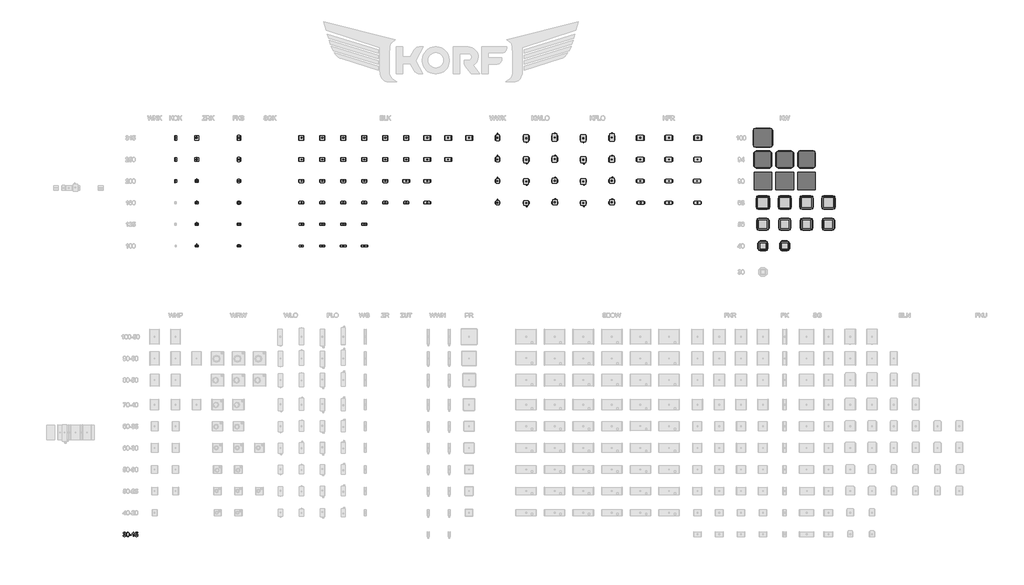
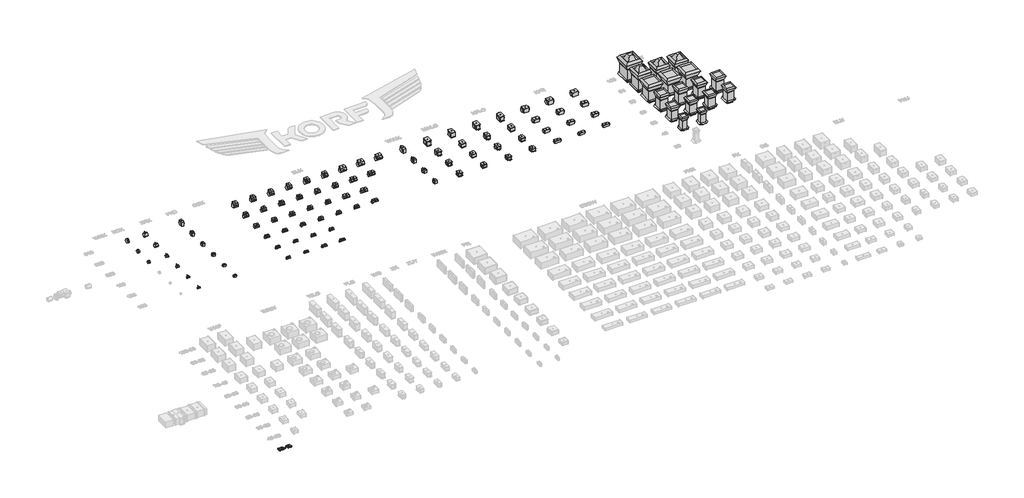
# One storey, part 4 of 9: 77 proxies, 27 dampers.
"""IFC4 building model written with IfcOpenShell, lengths in millimetres."""

from ifc_helpers import new_model, si_unit, origin, origin_with_axes, place, context, project, spatial, polyline, outline, extrude, transform, mapped, element, save
from components import mechanical_equipment_61299fc9, mechanical_equipment_a2146720, mechanical_equipment_e90fcd9d, mechanical_equipment_053e3df5, mechanical_equipment_fbcd34f2, mechanical_equipment_e2b16cbb, mechanical_equipment_80b6507f, mechanical_equipment_c953ac83, mechanical_equipment_d2f8c49c, mechanical_equipment_3f61a7cd, mechanical_equipment_b719484e, mechanical_equipment_6653e10a, mechanical_equipment_e60fcfd1, mechanical_equipment_d7da3fb7, mechanical_equipment_47d9994d, mechanical_equipment_0aa083f5, kw_56_35_4d_3cfab226, kw_56_40_4d_3924a8c1, kw_63_45_4d_b49a6be6, elk_100_0_5_84166f37, elk_100_1_5_5251a224, elk_100_2_3eff5f2a, elk_100_2_5_59d035f4, elk_125_1_5_565e7bed, elk_125_2_5_bc23f03a, elk_160_0_5_c7671d57, elk_160_6_a01fcbb2, elk_200_0_5_a370239c, elk_200_12_531226ba, elk_250_1_534a7c3e, elk_250_12_b1c06b70, elk_315_1_05c9570d, elk_315_12_936a433f, kw_100_71_6d_e29cd3cb, kw_40_31_4d_d219f473, kw_40_32_4d_eafc15b3, kw_63_50_4d_1f30ce77, kw_90_56_4d_96e68f79, kw_94_56_4d_b3d4e402, kw_94_63_4d_f0cd2b53, wwk_160_2_bb5e4d03, wwk_200_2_297e0e08, wwk_250_2_b55ce8c8, wwk_315_2_fcccd76f, damper_7a215fe3, damper_da60aa00, damper_0945496c, fks_100_c1252e7d, fks_125_277625ca, fks_160_d0bd64ff, fks_200_acca57ad, fks_250_b62fb0ec, fks_315_ea77e572, kfr_160_eu5_75ced821, kfr_200_eu5_2e2174df, kfr_250_eu5_363199dd, kfr_315_eu5_83c5217d, zrk_100_c9bb8a23, zrk_125_a92ab89a, zrk_160_3ae2b865, zrk_200_2ed01013, zrk_250_d0fe852c, zrk_315_1ff1c822

model = new_model("IFC4")

# Units and contexts
model_context = context("Model", 3, world=origin())
ifc_project = project(units=[si_unit("LENGTHUNIT", "METRE", prefix="MILLI")], contexts=[model_context])

# Site, building, storey
site = spatial("IfcSite", under=ifc_project)
building = spatial("IfcBuilding", under=site)
storey = spatial("IfcBuildingStorey", under=building, Name="KORF_Уровень 1", Elevation=0.0)

# Proxies
placement = place(None, origin())
element("IfcBuildingElementProxy", 1, Name="Текст модели 1", ObjectType="Текст модели 1", at=placement, inside=storey, context=model_context, shape_type="SweptSolid", body=[
    extrude(outline(polyline([(-11660.9256351, -19518.4615676), (-11623.2545188, -19513.752678), (-11614.820824, -19537.4258844), (-11602.469186, -19553.4103571), (-11585.5925995, -19562.5154365), (-11563.5840592, -19565.5504629), (-11537.7587431, -19561.3750023), (-11517.819539, -19548.8486204), (-11505.0724278, -19530.160215), (-11500.8233908, -19507.4986841), (-11505.0356396, -19485.9867844), (-11517.6723862, -19468.5399808), (-11536.8022499, -19456.9792891), (-11560.4938504, -19453.1257252), (-11586.9077776, -19457.2460036), (-11582.7139229, -19419.5748873), (-11576.6806582, -19420.0163457), (-11554.1110978, -19417.312413), (-11533.9327703, -19409.200615), (-11519.6957371, -19395.4786166), (-11514.9500594, -19375.9440826), (-11518.389756, -19359.6745014), (-11528.708846, -19346.4767348), (-11544.4541954, -19337.7303404), (-11564.1726703, -19334.8148756), (-11583.9279335, -19337.7579315), (-11600.0779531, -19346.5870994), (-11611.868571, -19361.3023792), (-11618.5456292, -19381.903771), (-11656.2167455, -19377.1948814), (-11645.1251034, -19343.368132), (-11625.3882343, -19318.113033), (-11598.3856959, -19302.3860777), (-11565.4970455, -19297.1437593), (-11541.8146421, -19299.7281303), (-11520.0636191, -19307.4812433), (-11501.7247017, -19319.7133197), (-11488.2786147, -19335.7345806), (-11480.028861, -19354.1930597), (-11477.2789431, -19373.7367907), (-11479.8909053, -19391.9469494), (-11487.7267917, -19408.464851), (-11500.676238, -19422.5363373), (-11518.6288793, -19433.4072503), (-11495.0476435, -19442.935394), (-11477.5732487, -19459.1589899), (-11466.757518, -19481.1951215), (-11463.1522745, -19508.1608717), (-11464.9548962, -19527.2723414), (-11470.3627616, -19544.8754948), (-11479.3758705, -19560.9703321), (-11491.9942229, -19575.5568532), (-11507.3670918, -19587.6601709), (-11524.64375, -19596.3053977), (-11543.8241975, -19601.4925339), (-11564.9084343, -19603.2215793), (-11583.9647217, -19601.7454527), (-11601.3287519, -19597.3170732), (-11617.0005249, -19589.9364407), (-11630.9800407, -19579.6035552), (-11642.7016807, -19566.9254219), (-11651.5998265, -19552.5090462), (-11657.6744779, -19536.3544281), (-11660.9256351, -19518.4615676)])), origin_with_axes(), (0.0, 0.0, 1.0), 30.0),
    extrude(outline(polyline([(-11430.1900477, -19450.2562457), (-11427.4217357, -19402.017719), (-11419.1167996, -19363.5464594), (-11405.358013, -19334.2538555), (-11386.2281493, -19313.5512963), (-11361.5892527, -19301.2456435), (-11331.3033674, -19297.1437593), (-11308.0900135, -19299.5717804), (-11287.3046808, -19306.8558439), (-11269.9222565, -19318.7108412), (-11256.917628, -19334.8516638), (-11247.0951787, -19355.1403558), (-11239.2592922, -19379.4389616), (-11234.1273384, -19410.2950639), (-11232.4166871, -19450.2562457), (-11235.157408, -19498.2188608), (-11243.3795706, -19536.5981499), (-11257.0555837, -19565.9183449), (-11276.1578563, -19586.7036777), (-11300.8519352, -19599.0921039), (-11331.3033674, -19603.2215793), (-11352.0519119, -19601.4281545), (-11370.4460117, -19596.0478803), (-11386.4856667, -19587.0807567), (-11400.1708769, -19574.5267836), (-11413.3042641, -19551.8330631), (-11422.685255, -19523.5567332), (-11428.3138495, -19489.6977941), (-11430.1900477, -19450.2562457)]), holes=[polyline([(-11392.5189314, -19450.1826693), (-11388.1043475, -19509.4392616), (-11382.5861175, -19529.7072603), (-11374.8605956, -19543.7350606), (-11355.1421207, -19560.0966124), (-11331.3033674, -19565.5504629), (-11307.4646141, -19560.0782183), (-11287.7461392, -19543.6614842), (-11280.0206173, -19529.6106913), (-11274.5023873, -19509.3472911), (-11270.0878034, -19450.1826693), (-11274.3552345, -19392.2596491), (-11279.6895235, -19372.0583291), (-11287.157528, -19357.6971357), (-11306.8392147, -19340.5354406), (-11331.7448258, -19334.8148756), (-11355.3260617, -19339.8548589), (-11374.2719844, -19354.9748089), (-11382.2550237, -19370.6097937), (-11387.9571947, -19391.689432), (-11392.5189314, -19450.1826693)])]), origin_with_axes(), (0.0, 0.0, 1.0), 30.0),
    extrude(outline(polyline([(-11208.8722394, -19509.0437885), (-11208.8722394, -19471.3726722), (-11091.1500009, -19471.3726722), (-11091.1500009, -19509.0437885), (-11208.8722394, -19509.0437885)])), origin_with_axes(), (0.0, 0.0, 1.0), 30.0),
    extrude(outline(polyline([(-10916.921088, -19598.5126897), (-10954.5922043, -19598.5126897), (-10954.5922043, -19363.656824), (-10990.2767579, -19389.0774699), (-11029.934437, -19408.096969), (-11029.934437, -19372.4859919), (-11000.3475275, -19356.3911546), (-10974.7153495, -19337.2428967), (-10954.5094309, -19316.8806283), (-10941.2012997, -19297.1437593), (-10916.921088, -19297.1437593), (-10916.921088, -19598.5126897)])), origin_with_axes(), (0.0, 0.0, 1.0), 30.0),
    extrude(outline(polyline([(-10827.4521868, -19518.4615676), (-10789.7810705, -19513.752678), (-10782.864889, -19536.3682237), (-10770.7983595, -19552.5642285), (-10753.6366645, -19562.3039043), (-10731.4349861, -19565.5504629), (-10704.4324476, -19561.0347115), (-10684.1989379, -19547.487457), (-10671.5621913, -19526.472198), (-10667.3499425, -19499.552433), (-10671.2954769, -19474.2053635), (-10683.1320801, -19454.8179824), (-10702.9517226, -19442.5123297), (-10730.8463749, -19438.4104454), (-10749.120913, -19440.0475203), (-10763.9189662, -19444.9587449), (-10785.072181, -19461.9548931), (-10822.7432973, -19457.2460036), (-10789.7810705, -19301.8526488), (-10643.8054948, -19301.8526488), (-10643.8054948, -19339.5237651), (-10759.3204413, -19339.5237651), (-10775.4336727, -19422.5179432), (-10748.5231047, -19406.1839826), (-10720.3249498, -19400.7393291), (-10701.9791346, -19402.4269878), (-10685.1278399, -19407.4899637), (-10669.7710659, -19415.928257), (-10655.9088125, -19427.7418676), (-10644.4331935, -19442.208827), (-10636.2363228, -19458.607167), (-10631.3182003, -19476.9368874), (-10629.6788262, -19497.1979882), (-10635.5833322, -19534.8691046), (-10642.9639647, -19551.6629176), (-10653.2968503, -19567.0955673), (-10668.9502292, -19582.9006975), (-10687.2155702, -19594.1900763), (-10708.0928735, -19600.9637035), (-10731.5821389, -19603.2215793), (-10768.5818705, -19597.4182408), (-10784.2605413, -19590.1640677), (-10798.0584154, -19580.0082254), (-10809.5386329, -19567.4565515), (-10818.264334, -19553.014884), (-10827.4521868, -19518.4615676)])), origin_with_axes(), (0.0, 0.0, 1.0), 30.0),
])
mechanical_equipment_shape = mechanical_equipment_61299fc9(model_context)
element("IfcBuildingElementProxy", 2, Name="KORF_Охладитель_Водяной_Круглый_Левый_KWLO : KWLO 160/2", ObjectType="KORF_Охладитель_Водяной_Круглый_Левый_KWLO : KWLO 160/2", at=placement, inside=storey, context=model_context, shape_type="MappedRepresentation", body=[
    mapped(mechanical_equipment_shape, transform((16370.9013805, 3793.4489253, 0.0), x_axis=(1.0, 0.0, 0.0), y_axis=(0.0, 1.0, 0.0), z_axis=(0.0, 0.0, 1.0))),
])
mechanical_equipment_2_shape = mechanical_equipment_a2146720(model_context)
element("IfcBuildingElementProxy", 3, Name="KORF_Охладитель_Водяной_Круглый_Правый_KWLO : KWLO 160/2", ObjectType="KORF_Охладитель_Водяной_Круглый_Правый_KWLO : KWLO 160/2", at=placement, inside=storey, context=model_context, shape_type="MappedRepresentation", body=[
    mapped(mechanical_equipment_2_shape, transform((18380.9013805, 3793.4489253, 0.0), x_axis=(1.0, 0.0, 0.0), y_axis=(0.0, 1.0, 0.0), z_axis=(0.0, 0.0, 1.0))),
])
mechanical_equipment_3_shape = mechanical_equipment_e90fcd9d(model_context)
element("IfcBuildingElementProxy", 4, Name="KORF_Охладитель_Водяной_Круглый_Правый_KWLO : KWLO 315/2", ObjectType="KORF_Охладитель_Водяной_Круглый_Правый_KWLO : KWLO 315/2", at=placement, inside=storey, context=model_context, shape_type="MappedRepresentation", body=[
    mapped(mechanical_equipment_3_shape, transform((18370.9013805, 8335.3913478, 0.0), x_axis=(1.0, 0.0, 0.0), y_axis=(0.0, 1.0, 0.0), z_axis=(0.0, 0.0, 1.0))),
])
mechanical_equipment_4_shape = mechanical_equipment_053e3df5(model_context)
element("IfcBuildingElementProxy", 5, Name="KORF_Охладитель_Фреоновый_Круглый_Левый_KFLO : KFLO 250/2", ObjectType="KORF_Охладитель_Фреоновый_Круглый_Левый_KFLO : KFLO 250/2", at=placement, inside=storey, context=model_context, shape_type="MappedRepresentation", body=[
    mapped(mechanical_equipment_4_shape, transform((20370.9013805, 6821.4105403, 0.0), x_axis=(1.0, 0.0, 0.0), y_axis=(0.0, 1.0, 0.0), z_axis=(0.0, 0.0, 1.0))),
])
mechanical_equipment_5_shape = mechanical_equipment_fbcd34f2(model_context)
element("IfcBuildingElementProxy", 6, Name="KORF_Охладитель_Фреоновый_Круглый_Левый_KFLO : KFLO 315/2", ObjectType="KORF_Охладитель_Фреоновый_Круглый_Левый_KFLO : KFLO 315/2", at=placement, inside=storey, context=model_context, shape_type="MappedRepresentation", body=[
    mapped(mechanical_equipment_5_shape, transform((20370.9013805, 8335.3913478, 0.0), x_axis=(1.0, 0.0, 0.0), y_axis=(0.0, 1.0, 0.0), z_axis=(0.0, 0.0, 1.0))),
])
mechanical_equipment_6_shape = mechanical_equipment_e2b16cbb(model_context)
element("IfcBuildingElementProxy", 7, Name="KORF_Охладитель_Фреоновый_Круглый_Правый_KFLO : KFLO 160/2", ObjectType="KORF_Охладитель_Фреоновый_Круглый_Правый_KFLO : KFLO 160/2", at=placement, inside=storey, context=model_context, shape_type="MappedRepresentation", body=[
    mapped(mechanical_equipment_6_shape, transform((22370.6736044, 3793.4489253, 0.0), x_axis=(1.0, 0.0, 0.0), y_axis=(0.0, 1.0, 0.0), z_axis=(0.0, 0.0, 1.0))),
])
mechanical_equipment_7_shape = mechanical_equipment_80b6507f(model_context)
element("IfcBuildingElementProxy", 8, Name="KORF_Охладитель_Фреоновый_Круглый_Правый_KFLO : KFLO 200/2", ObjectType="KORF_Охладитель_Фреоновый_Круглый_Правый_KFLO : KFLO 200/2", at=placement, inside=storey, context=model_context, shape_type="MappedRepresentation", body=[
    mapped(mechanical_equipment_7_shape, transform((22370.6736044, 5307.4297328, 0.0), x_axis=(1.0, 0.0, 0.0), y_axis=(0.0, 1.0, 0.0), z_axis=(0.0, 0.0, 1.0))),
])
mechanical_equipment_8_shape = mechanical_equipment_c953ac83(model_context)
element("IfcBuildingElementProxy", 9, Name="KORF_Охладитель_Фреоновый_Круглый_Правый_KFLO : KFLO 250/2", ObjectType="KORF_Охладитель_Фреоновый_Круглый_Правый_KFLO : KFLO 250/2", at=placement, inside=storey, context=model_context, shape_type="MappedRepresentation", body=[
    mapped(mechanical_equipment_8_shape, transform((22370.6736044, 6798.9105403, 0.0), x_axis=(1.0, 0.0, 0.0), y_axis=(0.0, 1.0, 0.0), z_axis=(0.0, 0.0, 1.0))),
])
mechanical_equipment_9_shape = mechanical_equipment_d2f8c49c(model_context)
element("IfcBuildingElementProxy", 10, Name="KORF_Охладитель_Фреоновый_Круглый_Правый_KFLO : KFLO 315/2", ObjectType="KORF_Охладитель_Фреоновый_Круглый_Правый_KFLO : KFLO 315/2", at=placement, inside=storey, context=model_context, shape_type="MappedRepresentation", body=[
    mapped(mechanical_equipment_9_shape, transform((22370.6736044, 8335.3913478, 0.0), x_axis=(1.0, 0.0, 0.0), y_axis=(0.0, 1.0, 0.0), z_axis=(0.0, 0.0, 1.0))),
])
mechanical_equipment_10_shape = mechanical_equipment_3f61a7cd(model_context)
element("IfcBuildingElementProxy", 11, Name="KORF_Охладитель_Водяной_Круглый_Левый_KWLO : KWLO 200/2", ObjectType="KORF_Охладитель_Водяной_Круглый_Левый_KWLO : KWLO 200/2", at=placement, inside=storey, context=model_context, shape_type="MappedRepresentation", body=[
    mapped(mechanical_equipment_10_shape, transform((16370.9013805, 5307.4297328, 0.0), x_axis=(1.0, 0.0, 0.0), y_axis=(0.0, 1.0, 0.0), z_axis=(0.0, 0.0, 1.0))),
])
mechanical_equipment_11_shape = mechanical_equipment_b719484e(model_context)
element("IfcBuildingElementProxy", 12, Name="KORF_Охладитель_Водяной_Круглый_Левый_KWLO : KWLO 250/2", ObjectType="KORF_Охладитель_Водяной_Круглый_Левый_KWLO : KWLO 250/2", at=placement, inside=storey, context=model_context, shape_type="MappedRepresentation", body=[
    mapped(mechanical_equipment_11_shape, transform((16370.9013805, 6821.4105403, 0.0), x_axis=(1.0, 0.0, 0.0), y_axis=(0.0, 1.0, 0.0), z_axis=(0.0, 0.0, 1.0))),
])
mechanical_equipment_12_shape = mechanical_equipment_6653e10a(model_context)
element("IfcBuildingElementProxy", 13, Name="KORF_Охладитель_Водяной_Круглый_Левый_KWLO : KWLO 315/2", ObjectType="KORF_Охладитель_Водяной_Круглый_Левый_KWLO : KWLO 315/2", at=placement, inside=storey, context=model_context, shape_type="MappedRepresentation", body=[
    mapped(mechanical_equipment_12_shape, transform((16370.9013805, 8335.3913478, 0.0), x_axis=(1.0, 0.0, 0.0), y_axis=(0.0, 1.0, 0.0), z_axis=(0.0, 0.0, 1.0))),
])
mechanical_equipment_13_shape = mechanical_equipment_e60fcfd1(model_context)
element("IfcBuildingElementProxy", 14, Name="KORF_Охладитель_Водяной_Круглый_Правый_KWLO : KWLO 200/2", ObjectType="KORF_Охладитель_Водяной_Круглый_Правый_KWLO : KWLO 200/2", at=placement, inside=storey, context=model_context, shape_type="MappedRepresentation", body=[
    mapped(mechanical_equipment_13_shape, transform((18370.9013805, 5307.4297328, 0.0), x_axis=(1.0, 0.0, 0.0), y_axis=(0.0, 1.0, 0.0), z_axis=(0.0, 0.0, 1.0))),
])
mechanical_equipment_14_shape = mechanical_equipment_d7da3fb7(model_context)
element("IfcBuildingElementProxy", 15, Name="KORF_Охладитель_Водяной_Круглый_Правый_KWLO : KWLO 250/2", ObjectType="KORF_Охладитель_Водяной_Круглый_Правый_KWLO : KWLO 250/2", at=placement, inside=storey, context=model_context, shape_type="MappedRepresentation", body=[
    mapped(mechanical_equipment_14_shape, transform((18370.9013805, 6821.4105403, 0.0), x_axis=(1.0, 0.0, 0.0), y_axis=(0.0, 1.0, 0.0), z_axis=(0.0, 0.0, 1.0))),
])
mechanical_equipment_15_shape = mechanical_equipment_47d9994d(model_context)
element("IfcBuildingElementProxy", 16, Name="KORF_Охладитель_Фреоновый_Круглый_Левый_KFLO : KFLO 160/2", ObjectType="KORF_Охладитель_Фреоновый_Круглый_Левый_KFLO : KFLO 160/2", at=placement, inside=storey, context=model_context, shape_type="MappedRepresentation", body=[
    mapped(mechanical_equipment_15_shape, transform((20370.9013805, 3793.4489253, 0.0), x_axis=(1.0, 0.0, 0.0), y_axis=(0.0, 1.0, 0.0), z_axis=(0.0, 0.0, 1.0))),
])
mechanical_equipment_16_shape = mechanical_equipment_0aa083f5(model_context)
element("IfcBuildingElementProxy", 17, Name="KORF_Охладитель_Фреоновый_Круглый_Левый_KFLO : KFLO 200/2", ObjectType="KORF_Охладитель_Фреоновый_Круглый_Левый_KFLO : KFLO 200/2", at=placement, inside=storey, context=model_context, shape_type="MappedRepresentation", body=[
    mapped(mechanical_equipment_16_shape, transform((20370.9013805, 5307.4297328, 0.0), x_axis=(1.0, 0.0, 0.0), y_axis=(0.0, 1.0, 0.0), z_axis=(0.0, 0.0, 1.0))),
])
kw_56_35_4d_shape = kw_56_35_4d_3cfab226(model_context)
element("IfcBuildingElementProxy", 18, Name="KORF_Вентилятор_Вытяжной_Крышный_KW : KW 56/35-4Е", ObjectType="KORF_Вентилятор_Вытяжной_Крышный_KW : KW 56/35-4Е", at=placement, inside=storey, context=model_context, shape_type="MappedRepresentation", body=[
    mapped(kw_56_35_4d_shape, transform((37754.0923356, 2279.4681178, 0.0), x_axis=(1.0, 0.0, 0.0), y_axis=(0.0, 1.0, 0.0), z_axis=(0.0, 0.0, 1.0))),
])
kw_56_40_4d_shape = kw_56_40_4d_3924a8c1(model_context)
element("IfcBuildingElementProxy", 19, Name="KORF_Вентилятор_Вытяжной_Крышный_KW : KW 56/40-4Е", ObjectType="KORF_Вентилятор_Вытяжной_Крышный_KW : KW 56/40-4Е", at=placement, inside=storey, context=model_context, shape_type="MappedRepresentation", body=[
    mapped(kw_56_40_4d_shape, transform((34695.5286839, 2279.4681178, 0.0), x_axis=(1.0, 0.0, 0.0), y_axis=(0.0, 1.0, 0.0), z_axis=(0.0, 0.0, 1.0))),
])
kw_63_45_4d_shape = kw_63_45_4d_b49a6be6(model_context)
element("IfcBuildingElementProxy", 20, Name="KORF_Вентилятор_Вытяжной_Крышный_KW : KW 63/45-4Е", ObjectType="KORF_Вентилятор_Вытяжной_Крышный_KW : KW 63/45-4Е", at=placement, inside=storey, context=model_context, shape_type="MappedRepresentation", body=[
    mapped(kw_63_45_4d_shape, transform((37754.0923356, 3793.4489253, 0.0), x_axis=(1.0, 0.0, 0.0), y_axis=(0.0, 1.0, 0.0), z_axis=(0.0, 0.0, 1.0))),
])
elk_100_0_5_shape = elk_100_0_5_84166f37(model_context)
element("IfcBuildingElementProxy", 21, Name="KORF_Нагреватель_Электрический_Круглый_ELK : ELK 100/0.5", ObjectType="KORF_Нагреватель_Электрический_Круглый_ELK : ELK 100/0.5", at=placement, inside=storey, context=model_context, shape_type="MappedRepresentation", body=[
    mapped(elk_100_0_5_shape, transform((677.4823008, 765.4873103, 0.0), x_axis=(1.0, 0.0, 0.0), y_axis=(0.0, 1.0, 0.0), z_axis=(0.0, 0.0, 1.0))),
])
elk_100_1_5_shape = elk_100_1_5_5251a224(model_context)
element("IfcBuildingElementProxy", 22, Name="KORF_Нагреватель_Электрический_Круглый_ELK : ELK 100/1.5", ObjectType="KORF_Нагреватель_Электрический_Круглый_ELK : ELK 100/1.5", at=placement, inside=storey, context=model_context, shape_type="MappedRepresentation", body=[
    mapped(elk_100_1_5_shape, transform((2115.0346858, 765.4873103, 0.0), x_axis=(1.0, 0.0, 0.0), y_axis=(0.0, 1.0, 0.0), z_axis=(0.0, 0.0, 1.0))),
])
elk_100_2_shape = elk_100_2_3eff5f2a(model_context)
element("IfcBuildingElementProxy", 23, Name="KORF_Нагреватель_Электрический_Круглый_ELK : ELK 100/2", ObjectType="KORF_Нагреватель_Электрический_Круглый_ELK : ELK 100/2", at=placement, inside=storey, context=model_context, shape_type="MappedRepresentation", body=[
    mapped(elk_100_2_shape, transform((3559.0870707, 765.4873103, 0.0), x_axis=(1.0, 0.0, 0.0), y_axis=(0.0, 1.0, 0.0), z_axis=(0.0, 0.0, 1.0))),
])
elk_100_2_5_shape = elk_100_2_5_59d035f4(model_context)
element("IfcBuildingElementProxy", 24, Name="KORF_Нагреватель_Электрический_Круглый_ELK : ELK 100/2.5", ObjectType="KORF_Нагреватель_Электрический_Круглый_ELK : ELK 100/2.5", at=placement, inside=storey, context=model_context, shape_type="MappedRepresentation", body=[
    mapped(elk_100_2_5_shape, transform((5005.6394557, 765.4873103, 0.0), x_axis=(1.0, 0.0, 0.0), y_axis=(0.0, 1.0, 0.0), z_axis=(0.0, 0.0, 1.0))),
])
elk_125_1_5_shape = elk_125_1_5_565e7bed(model_context)
element("IfcBuildingElementProxy", 25, Name="KORF_Нагреватель_Электрический_Круглый_ELK : ELK 125/1.5", ObjectType="KORF_Нагреватель_Электрический_Круглый_ELK : ELK 125/1.5", at=placement, inside=storey, context=model_context, shape_type="MappedRepresentation", body=[
    mapped(elk_125_1_5_shape, transform((660.9823008, 2279.4681178, 0.0), x_axis=(1.0, 0.0, 0.0), y_axis=(0.0, 1.0, 0.0), z_axis=(0.0, 0.0, 1.0))),
])
element("IfcBuildingElementProxy", 26, Name="KORF_Нагреватель_Электрический_Круглый_ELK : ELK 125/2", ObjectType="KORF_Нагреватель_Электрический_Круглый_ELK : ELK 125/2", at=placement, inside=storey, context=model_context, shape_type="MappedRepresentation", body=[
    mapped(elk_125_1_5_shape, transform((2130.0346858, 2279.4681178, 0.0), x_axis=(1.0, 0.0, 0.0), y_axis=(0.0, 1.0, 0.0), z_axis=(0.0, 0.0, 1.0))),
])
elk_125_2_5_shape = elk_125_2_5_bc23f03a(model_context)
element("IfcBuildingElementProxy", 27, Name="KORF_Нагреватель_Электрический_Круглый_ELK : ELK 125/2.5", ObjectType="KORF_Нагреватель_Электрический_Круглый_ELK : ELK 125/2.5", at=placement, inside=storey, context=model_context, shape_type="MappedRepresentation", body=[
    mapped(elk_125_2_5_shape, transform((3590.5870707, 2279.4681178, 0.0), x_axis=(1.0, 0.0, 0.0), y_axis=(0.0, 1.0, 0.0), z_axis=(0.0, 0.0, 1.0))),
])
element("IfcBuildingElementProxy", 28, Name="KORF_Нагреватель_Электрический_Круглый_ELK : ELK 125/3", ObjectType="KORF_Нагреватель_Электрический_Круглый_ELK : ELK 125/3", at=placement, inside=storey, context=model_context, shape_type="MappedRepresentation", body=[
    mapped(elk_125_2_5_shape, transform((5059.6394557, 2279.4681178, 0.0), x_axis=(1.0, 0.0, 0.0), y_axis=(0.0, 1.0, 0.0), z_axis=(0.0, 0.0, 1.0))),
])
elk_160_0_5_shape = elk_160_0_5_c7671d57(model_context)
element("IfcBuildingElementProxy", 29, Name="KORF_Нагреватель_Электрический_Круглый_ELK : ELK 160/0.5", ObjectType="KORF_Нагреватель_Электрический_Круглый_ELK : ELK 160/0.5", at=placement, inside=storey, context=model_context, shape_type="MappedRepresentation", body=[
    mapped(elk_160_0_5_shape, transform((640.9823008, 3793.4489253, 0.0), x_axis=(1.0, 0.0, 0.0), y_axis=(0.0, 1.0, 0.0), z_axis=(0.0, 0.0, 1.0))),
])
element("IfcBuildingElementProxy", 30, Name="KORF_Нагреватель_Электрический_Круглый_ELK : ELK 160/1", ObjectType="KORF_Нагреватель_Электрический_Круглый_ELK : ELK 160/1", at=placement, inside=storey, context=model_context, shape_type="MappedRepresentation", body=[
    mapped(elk_160_0_5_shape, transform((2110.0346858, 3793.4489253, 0.0), x_axis=(1.0, 0.0, 0.0), y_axis=(0.0, 1.0, 0.0), z_axis=(0.0, 0.0, 1.0))),
])
element("IfcBuildingElementProxy", 31, Name="KORF_Нагреватель_Электрический_Круглый_ELK : ELK 160/1.5", ObjectType="KORF_Нагреватель_Электрический_Круглый_ELK : ELK 160/1.5", at=placement, inside=storey, context=model_context, shape_type="MappedRepresentation", body=[
    mapped(elk_160_0_5_shape, transform((3579.0870707, 3793.4489253, 0.0), x_axis=(1.0, 0.0, 0.0), y_axis=(0.0, 1.0, 0.0), z_axis=(0.0, 0.0, 1.0))),
])
element("IfcBuildingElementProxy", 32, Name="KORF_Нагреватель_Электрический_Круглый_ELK : ELK 160/2", ObjectType="KORF_Нагреватель_Электрический_Круглый_ELK : ELK 160/2", at=placement, inside=storey, context=model_context, shape_type="MappedRepresentation", body=[
    mapped(elk_160_0_5_shape, transform((5048.1394557, 3793.4489253, 0.0), x_axis=(1.0, 0.0, 0.0), y_axis=(0.0, 1.0, 0.0), z_axis=(0.0, 0.0, 1.0))),
])
element("IfcBuildingElementProxy", 33, Name="KORF_Нагреватель_Электрический_Круглый_ELK : ELK 160/3", ObjectType="KORF_Нагреватель_Электрический_Круглый_ELK : ELK 160/3", at=placement, inside=storey, context=model_context, shape_type="MappedRepresentation", body=[
    mapped(elk_160_0_5_shape, transform((6517.1918407, 3793.4489253, 0.0), x_axis=(1.0, 0.0, 0.0), y_axis=(0.0, 1.0, 0.0), z_axis=(0.0, 0.0, 1.0))),
])
element("IfcBuildingElementProxy", 34, Name="KORF_Нагреватель_Электрический_Круглый_ELK : ELK 160/4.5", ObjectType="KORF_Нагреватель_Электрический_Круглый_ELK : ELK 160/4.5", at=placement, inside=storey, context=model_context, shape_type="MappedRepresentation", body=[
    mapped(elk_160_0_5_shape, transform((7986.2442256, 3793.4489253, 0.0), x_axis=(1.0, 0.0, 0.0), y_axis=(0.0, 1.0, 0.0), z_axis=(0.0, 0.0, 1.0))),
])
elk_160_6_shape = elk_160_6_a01fcbb2(model_context)
element("IfcBuildingElementProxy", 35, Name="KORF_Нагреватель_Электрический_Круглый_ELK : ELK 160/6", ObjectType="KORF_Нагреватель_Электрический_Круглый_ELK : ELK 160/6", at=placement, inside=storey, context=model_context, shape_type="MappedRepresentation", body=[
    mapped(elk_160_6_shape, transform((9395.2966106, 3793.4489253, 0.0), x_axis=(1.0, 0.0, 0.0), y_axis=(0.0, 1.0, 0.0), z_axis=(0.0, 0.0, 1.0))),
])
elk_200_0_5_shape = elk_200_0_5_a370239c(model_context)
element("IfcBuildingElementProxy", 36, Name="KORF_Нагреватель_Электрический_Круглый_ELK : ELK 200/0.5", ObjectType="KORF_Нагреватель_Электрический_Круглый_ELK : ELK 200/0.5", at=placement, inside=storey, context=model_context, shape_type="MappedRepresentation", body=[
    mapped(elk_200_0_5_shape, transform((640.9823008, 5307.4297328, 0.0), x_axis=(1.0, 0.0, 0.0), y_axis=(0.0, 1.0, 0.0), z_axis=(0.0, 0.0, 1.0))),
])
element("IfcBuildingElementProxy", 37, Name="KORF_Нагреватель_Электрический_Круглый_ELK : ELK 200/1", ObjectType="KORF_Нагреватель_Электрический_Круглый_ELK : ELK 200/1", at=placement, inside=storey, context=model_context, shape_type="MappedRepresentation", body=[
    mapped(elk_200_0_5_shape, transform((2110.0346858, 5307.4297328, 0.0), x_axis=(1.0, 0.0, 0.0), y_axis=(0.0, 1.0, 0.0), z_axis=(0.0, 0.0, 1.0))),
])
element("IfcBuildingElementProxy", 38, Name="KORF_Нагреватель_Электрический_Круглый_ELK : ELK 200/1.5", ObjectType="KORF_Нагреватель_Электрический_Круглый_ELK : ELK 200/1.5", at=placement, inside=storey, context=model_context, shape_type="MappedRepresentation", body=[
    mapped(elk_200_0_5_shape, transform((3579.0870707, 5307.4297328, 0.0), x_axis=(1.0, 0.0, 0.0), y_axis=(0.0, 1.0, 0.0), z_axis=(0.0, 0.0, 1.0))),
])
elk_200_12_shape = elk_200_12_531226ba(model_context)
element("IfcBuildingElementProxy", 39, Name="KORF_Нагреватель_Электрический_Круглый_ELK : ELK 200/12", ObjectType="KORF_Нагреватель_Электрический_Круглый_ELK : ELK 200/12", at=placement, inside=storey, context=model_context, shape_type="MappedRepresentation", body=[
    mapped(elk_200_12_shape, transform((9395.2966106, 5307.4297328, 0.0), x_axis=(1.0, 0.0, 0.0), y_axis=(0.0, 1.0, 0.0), z_axis=(0.0, 0.0, 1.0))),
])
element("IfcBuildingElementProxy", 40, Name="KORF_Нагреватель_Электрический_Круглый_ELK : ELK 200/3", ObjectType="KORF_Нагреватель_Электрический_Круглый_ELK : ELK 200/3", at=placement, inside=storey, context=model_context, shape_type="MappedRepresentation", body=[
    mapped(elk_200_0_5_shape, transform((5048.1394557, 5307.4297328, 0.0), x_axis=(1.0, 0.0, 0.0), y_axis=(0.0, 1.0, 0.0), z_axis=(0.0, 0.0, 1.0))),
])
element("IfcBuildingElementProxy", 41, Name="KORF_Нагреватель_Электрический_Круглый_ELK : ELK 200/6", ObjectType="KORF_Нагреватель_Электрический_Круглый_ELK : ELK 200/6", at=placement, inside=storey, context=model_context, shape_type="MappedRepresentation", body=[
    mapped(elk_200_0_5_shape, transform((6517.1918407, 5307.4297328, 0.0), x_axis=(1.0, 0.0, 0.0), y_axis=(0.0, 1.0, 0.0), z_axis=(0.0, 0.0, 1.0))),
])
element("IfcBuildingElementProxy", 42, Name="KORF_Нагреватель_Электрический_Круглый_ELK : ELK 200/9", ObjectType="KORF_Нагреватель_Электрический_Круглый_ELK : ELK 200/9", at=placement, inside=storey, context=model_context, shape_type="MappedRepresentation", body=[
    mapped(elk_200_12_shape, transform((7926.2442256, 5307.4297328, 0.0), x_axis=(1.0, 0.0, 0.0), y_axis=(0.0, 1.0, 0.0), z_axis=(0.0, 0.0, 1.0))),
])
elk_250_1_shape = elk_250_1_534a7c3e(model_context)
element("IfcBuildingElementProxy", 43, Name="KORF_Нагреватель_Электрический_Круглый_ELK : ELK 250/1", ObjectType="KORF_Нагреватель_Электрический_Круглый_ELK : ELK 250/1", at=placement, inside=storey, context=model_context, shape_type="MappedRepresentation", body=[
    mapped(elk_250_1_shape, transform((640.9823008, 6821.4105403, 0.0), x_axis=(1.0, 0.0, 0.0), y_axis=(0.0, 1.0, 0.0), z_axis=(0.0, 0.0, 1.0))),
])
element("IfcBuildingElementProxy", 44, Name="KORF_Нагреватель_Электрический_Круглый_ELK : ELK 250/1.5", ObjectType="KORF_Нагреватель_Электрический_Круглый_ELK : ELK 250/1.5", at=placement, inside=storey, context=model_context, shape_type="MappedRepresentation", body=[
    mapped(elk_250_1_shape, transform((2110.0346858, 6821.4105403, 0.0), x_axis=(1.0, 0.0, 0.0), y_axis=(0.0, 1.0, 0.0), z_axis=(0.0, 0.0, 1.0))),
])
elk_250_12_shape = elk_250_12_b1c06b70(model_context)
element("IfcBuildingElementProxy", 45, Name="KORF_Нагреватель_Электрический_Круглый_ELK : ELK 250/12", ObjectType="KORF_Нагреватель_Электрический_Круглый_ELK : ELK 250/12", at=placement, inside=storey, context=model_context, shape_type="MappedRepresentation", body=[
    mapped(elk_250_12_shape, transform((9395.2966106, 6821.4105403, 0.0), x_axis=(1.0, 0.0, 0.0), y_axis=(0.0, 1.0, 0.0), z_axis=(0.0, 0.0, 1.0))),
])
element("IfcBuildingElementProxy", 46, Name="KORF_Нагреватель_Электрический_Круглый_ELK : ELK 250/15", ObjectType="KORF_Нагреватель_Электрический_Круглый_ELK : ELK 250/15", at=placement, inside=storey, context=model_context, shape_type="MappedRepresentation", body=[
    mapped(elk_250_12_shape, transform((10864.3489956, 6821.4105403, 0.0), x_axis=(1.0, 0.0, 0.0), y_axis=(0.0, 1.0, 0.0), z_axis=(0.0, 0.0, 1.0))),
])
element("IfcBuildingElementProxy", 47, Name="KORF_Нагреватель_Электрический_Круглый_ELK : ELK 250/3", ObjectType="KORF_Нагреватель_Электрический_Круглый_ELK : ELK 250/3", at=placement, inside=storey, context=model_context, shape_type="MappedRepresentation", body=[
    mapped(elk_250_1_shape, transform((3579.0870707, 6821.4105403, 0.0), x_axis=(1.0, 0.0, 0.0), y_axis=(0.0, 1.0, 0.0), z_axis=(0.0, 0.0, 1.0))),
])
element("IfcBuildingElementProxy", 48, Name="KORF_Нагреватель_Электрический_Круглый_ELK : ELK 250/4.5", ObjectType="KORF_Нагреватель_Электрический_Круглый_ELK : ELK 250/4.5", at=placement, inside=storey, context=model_context, shape_type="MappedRepresentation", body=[
    mapped(elk_250_1_shape, transform((5048.1394557, 6821.4105403, 0.0), x_axis=(1.0, 0.0, 0.0), y_axis=(0.0, 1.0, 0.0), z_axis=(0.0, 0.0, 1.0))),
])
element("IfcBuildingElementProxy", 49, Name="KORF_Нагреватель_Электрический_Круглый_ELK : ELK 250/6", ObjectType="KORF_Нагреватель_Электрический_Круглый_ELK : ELK 250/6", at=placement, inside=storey, context=model_context, shape_type="MappedRepresentation", body=[
    mapped(elk_250_1_shape, transform((6517.1918407, 6821.4105403, 0.0), x_axis=(1.0, 0.0, 0.0), y_axis=(0.0, 1.0, 0.0), z_axis=(0.0, 0.0, 1.0))),
])
element("IfcBuildingElementProxy", 50, Name="KORF_Нагреватель_Электрический_Круглый_ELK : ELK 250/9", ObjectType="KORF_Нагреватель_Электрический_Круглый_ELK : ELK 250/9", at=placement, inside=storey, context=model_context, shape_type="MappedRepresentation", body=[
    mapped(elk_250_1_shape, transform((7986.2442256, 6821.4105403, 0.0), x_axis=(1.0, 0.0, 0.0), y_axis=(0.0, 1.0, 0.0), z_axis=(0.0, 0.0, 1.0))),
])
elk_315_1_shape = elk_315_1_05c9570d(model_context)
element("IfcBuildingElementProxy", 51, Name="KORF_Нагреватель_Электрический_Круглый_ELK : ELK 315/1", ObjectType="KORF_Нагреватель_Электрический_Круглый_ELK : ELK 315/1", at=placement, inside=storey, context=model_context, shape_type="MappedRepresentation", body=[
    mapped(elk_315_1_shape, transform((640.9823008, 8335.3913478, 0.0), x_axis=(1.0, 0.0, 0.0), y_axis=(0.0, 1.0, 0.0), z_axis=(0.0, 0.0, 1.0))),
])
element("IfcBuildingElementProxy", 52, Name="KORF_Нагреватель_Электрический_Круглый_ELK : ELK 315/1.5", ObjectType="KORF_Нагреватель_Электрический_Круглый_ELK : ELK 315/1.5", at=placement, inside=storey, context=model_context, shape_type="MappedRepresentation", body=[
    mapped(elk_315_1_shape, transform((2110.0346858, 8335.3913478, 0.0), x_axis=(1.0, 0.0, 0.0), y_axis=(0.0, 1.0, 0.0), z_axis=(0.0, 0.0, 1.0))),
])
elk_315_12_shape = elk_315_12_936a433f(model_context)
element("IfcBuildingElementProxy", 53, Name="KORF_Нагреватель_Электрический_Круглый_ELK : ELK 315/12", ObjectType="KORF_Нагреватель_Электрический_Круглый_ELK : ELK 315/12", at=placement, inside=storey, context=model_context, shape_type="MappedRepresentation", body=[
    mapped(elk_315_12_shape, transform((9395.2966106, 8335.3913478, 0.0), x_axis=(1.0, 0.0, 0.0), y_axis=(0.0, 1.0, 0.0), z_axis=(0.0, 0.0, 1.0))),
])
element("IfcBuildingElementProxy", 54, Name="KORF_Нагреватель_Электрический_Круглый_ELK : ELK 315/15", ObjectType="KORF_Нагреватель_Электрический_Круглый_ELK : ELK 315/15", at=placement, inside=storey, context=model_context, shape_type="MappedRepresentation", body=[
    mapped(elk_315_12_shape, transform((10864.3489956, 8335.3913478, 0.0), x_axis=(1.0, 0.0, 0.0), y_axis=(0.0, 1.0, 0.0), z_axis=(0.0, 0.0, 1.0))),
])
element("IfcBuildingElementProxy", 55, Name="KORF_Нагреватель_Электрический_Круглый_ELK : ELK 315/18", ObjectType="KORF_Нагреватель_Электрический_Круглый_ELK : ELK 315/18", at=placement, inside=storey, context=model_context, shape_type="MappedRepresentation", body=[
    mapped(elk_315_12_shape, transform((12333.4013805, 8335.3913478, 0.0), x_axis=(1.0, 0.0, 0.0), y_axis=(0.0, 1.0, 0.0), z_axis=(0.0, 0.0, 1.0))),
])
element("IfcBuildingElementProxy", 56, Name="KORF_Нагреватель_Электрический_Круглый_ELK : ELK 315/2", ObjectType="KORF_Нагреватель_Электрический_Круглый_ELK : ELK 315/2", at=placement, inside=storey, context=model_context, shape_type="MappedRepresentation", body=[
    mapped(elk_315_1_shape, transform((3579.0870707, 8335.3913478, 0.0), x_axis=(1.0, 0.0, 0.0), y_axis=(0.0, 1.0, 0.0), z_axis=(0.0, 0.0, 1.0))),
])
element("IfcBuildingElementProxy", 57, Name="KORF_Нагреватель_Электрический_Круглый_ELK : ELK 315/3", ObjectType="KORF_Нагреватель_Электрический_Круглый_ELK : ELK 315/3", at=placement, inside=storey, context=model_context, shape_type="MappedRepresentation", body=[
    mapped(elk_315_1_shape, transform((5048.1394557, 8335.3913478, 0.0), x_axis=(1.0, 0.0, 0.0), y_axis=(0.0, 1.0, 0.0), z_axis=(0.0, 0.0, 1.0))),
])
element("IfcBuildingElementProxy", 58, Name="KORF_Нагреватель_Электрический_Круглый_ELK : ELK 315/6", ObjectType="KORF_Нагреватель_Электрический_Круглый_ELK : ELK 315/6", at=placement, inside=storey, context=model_context, shape_type="MappedRepresentation", body=[
    mapped(elk_315_1_shape, transform((6517.1918407, 8335.3913478, 0.0), x_axis=(1.0, 0.0, 0.0), y_axis=(0.0, 1.0, 0.0), z_axis=(0.0, 0.0, 1.0))),
])
element("IfcBuildingElementProxy", 59, Name="KORF_Нагреватель_Электрический_Круглый_ELK : ELK 315/9", ObjectType="KORF_Нагреватель_Электрический_Круглый_ELK : ELK 315/9", at=placement, inside=storey, context=model_context, shape_type="MappedRepresentation", body=[
    mapped(elk_315_1_shape, transform((7986.2442256, 8335.3913478, 0.0), x_axis=(1.0, 0.0, 0.0), y_axis=(0.0, 1.0, 0.0), z_axis=(0.0, 0.0, 1.0))),
])
kw_100_71_6d_shape = kw_100_71_6d_e29cd3cb(model_context)
element("IfcBuildingElementProxy", 60, Name="KORF_Вентилятор_Вытяжной_Крышный_KW : KW 100/71-6D", ObjectType="KORF_Вентилятор_Вытяжной_Крышный_KW : KW 100/71-6D", at=placement, inside=storey, context=model_context, shape_type="MappedRepresentation", body=[
    mapped(kw_100_71_6d_shape, transform((33166.2468581, 8335.3913478, 0.0), x_axis=(1.0, 0.0, 0.0), y_axis=(0.0, 1.0, 0.0), z_axis=(0.0, 0.0, 1.0))),
])
kw_40_31_4d_shape = kw_40_31_4d_d219f473(model_context)
element("IfcBuildingElementProxy", 61, Name="KORF_Вентилятор_Вытяжной_Крышный_KW : KW 40/31-4D", ObjectType="KORF_Вентилятор_Вытяжной_Крышный_KW : KW 40/31-4D", at=placement, inside=storey, context=model_context, shape_type="MappedRepresentation", body=[
    mapped(kw_40_31_4d_shape, transform((34695.5286839, 765.4873103, 0.0), x_axis=(1.0, 0.0, 0.0), y_axis=(0.0, 1.0, 0.0), z_axis=(0.0, 0.0, 1.0))),
])
kw_40_32_4d_shape = kw_40_32_4d_eafc15b3(model_context)
element("IfcBuildingElementProxy", 62, Name="KORF_Вентилятор_Вытяжной_Крышный_KW : KW 40/32-4D", ObjectType="KORF_Вентилятор_Вытяжной_Крышный_KW : KW 40/32-4D", at=placement, inside=storey, context=model_context, shape_type="MappedRepresentation", body=[
    mapped(kw_40_32_4d_shape, transform((33166.2468581, 765.4873103, 0.0), x_axis=(1.0, 0.0, 0.0), y_axis=(0.0, 1.0, 0.0), z_axis=(0.0, 0.0, 1.0))),
])
element("IfcBuildingElementProxy", 63, Name="KORF_Вентилятор_Вытяжной_Крышный_KW : KW 56/35-4D", ObjectType="KORF_Вентилятор_Вытяжной_Крышный_KW : KW 56/35-4D", at=placement, inside=storey, context=model_context, shape_type="MappedRepresentation", body=[
    mapped(kw_56_35_4d_shape, transform((36224.8105098, 2279.4681178, 0.0), x_axis=(1.0, 0.0, 0.0), y_axis=(0.0, 1.0, 0.0), z_axis=(0.0, 0.0, 1.0))),
])
element("IfcBuildingElementProxy", 64, Name="KORF_Вентилятор_Вытяжной_Крышный_KW : KW 56/40-4D", ObjectType="KORF_Вентилятор_Вытяжной_Крышный_KW : KW 56/40-4D", at=placement, inside=storey, context=model_context, shape_type="MappedRepresentation", body=[
    mapped(kw_56_40_4d_shape, transform((33166.2468581, 2279.4681178, 0.0), x_axis=(1.0, 0.0, 0.0), y_axis=(0.0, 1.0, 0.0), z_axis=(0.0, 0.0, 1.0))),
])
element("IfcBuildingElementProxy", 65, Name="KORF_Вентилятор_Вытяжной_Крышный_KW : KW 63/45-4D", ObjectType="KORF_Вентилятор_Вытяжной_Крышный_KW : KW 63/45-4D", at=placement, inside=storey, context=model_context, shape_type="MappedRepresentation", body=[
    mapped(kw_63_45_4d_shape, transform((36224.8105098, 3793.4489253, 0.0), x_axis=(1.0, 0.0, 0.0), y_axis=(0.0, 1.0, 0.0), z_axis=(0.0, 0.0, 1.0))),
])
kw_63_50_4d_shape = kw_63_50_4d_1f30ce77(model_context)
element("IfcBuildingElementProxy", 66, Name="KORF_Вентилятор_Вытяжной_Крышный_KW : KW 63/50-4D", ObjectType="KORF_Вентилятор_Вытяжной_Крышный_KW : KW 63/50-4D", at=placement, inside=storey, context=model_context, shape_type="MappedRepresentation", body=[
    mapped(kw_63_50_4d_shape, transform((33166.2468581, 3793.4489253, 0.0), x_axis=(1.0, 0.0, 0.0), y_axis=(0.0, 1.0, 0.0), z_axis=(0.0, 0.0, 1.0))),
])
element("IfcBuildingElementProxy", 67, Name="KORF_Вентилятор_Вытяжной_Крышный_KW : KW 63/50-6D", ObjectType="KORF_Вентилятор_Вытяжной_Крышный_KW : KW 63/50-6D", at=placement, inside=storey, context=model_context, shape_type="MappedRepresentation", body=[
    mapped(kw_63_50_4d_shape, transform((34695.5286839, 3793.4489253, 0.0), x_axis=(1.0, 0.0, 0.0), y_axis=(0.0, 1.0, 0.0), z_axis=(0.0, 0.0, 1.0))),
])
kw_90_56_4d_shape = kw_90_56_4d_96e68f79(model_context)
element("IfcBuildingElementProxy", 68, Name="KORF_Вентилятор_Вытяжной_Крышный_KW : KW 90/56-4D", ObjectType="KORF_Вентилятор_Вытяжной_Крышный_KW : KW 90/56-4D", at=placement, inside=storey, context=model_context, shape_type="MappedRepresentation", body=[
    mapped(kw_90_56_4d_shape, transform((34695.5286839, 5307.4297328, 0.0), x_axis=(1.0, 0.0, 0.0), y_axis=(0.0, 1.0, 0.0), z_axis=(0.0, 0.0, 1.0))),
])
element("IfcBuildingElementProxy", 69, Name="KORF_Вентилятор_Вытяжной_Крышный_KW : KW 90/56-6D", ObjectType="KORF_Вентилятор_Вытяжной_Крышный_KW : KW 90/56-6D", at=placement, inside=storey, context=model_context, shape_type="MappedRepresentation", body=[
    mapped(kw_90_56_4d_shape, transform((36224.8105098, 5307.4297328, 0.0), x_axis=(1.0, 0.0, 0.0), y_axis=(0.0, 1.0, 0.0), z_axis=(0.0, 0.0, 1.0))),
])
element("IfcBuildingElementProxy", 70, Name="KORF_Вентилятор_Вытяжной_Крышный_KW : KW 90/63-6D", ObjectType="KORF_Вентилятор_Вытяжной_Крышный_KW : KW 90/63-6D", at=placement, inside=storey, context=model_context, shape_type="MappedRepresentation", body=[
    mapped(kw_90_56_4d_shape, transform((33166.2468581, 5307.4297328, 0.0), x_axis=(1.0, 0.0, 0.0), y_axis=(0.0, 1.0, 0.0), z_axis=(0.0, 0.0, 1.0))),
])
kw_94_56_4d_shape = kw_94_56_4d_b3d4e402(model_context)
element("IfcBuildingElementProxy", 71, Name="KORF_Вентилятор_Вытяжной_Крышный_KW : KW 94/56-4D", ObjectType="KORF_Вентилятор_Вытяжной_Крышный_KW : KW 94/56-4D", at=placement, inside=storey, context=model_context, shape_type="MappedRepresentation", body=[
    mapped(kw_94_56_4d_shape, transform((36224.8105098, 6821.4105403, 0.0), x_axis=(1.0, 0.0, 0.0), y_axis=(0.0, 1.0, 0.0), z_axis=(0.0, 0.0, 1.0))),
])
kw_94_63_4d_shape = kw_94_63_4d_f0cd2b53(model_context)
element("IfcBuildingElementProxy", 72, Name="KORF_Вентилятор_Вытяжной_Крышный_KW : KW 94/63-4D", ObjectType="KORF_Вентилятор_Вытяжной_Крышный_KW : KW 94/63-4D", at=placement, inside=storey, context=model_context, shape_type="MappedRepresentation", body=[
    mapped(kw_94_63_4d_shape, transform((34695.5286839, 6821.4105403, 0.0), x_axis=(1.0, 0.0, 0.0), y_axis=(0.0, 1.0, 0.0), z_axis=(0.0, 0.0, 1.0))),
])
element("IfcBuildingElementProxy", 73, Name="KORF_Вентилятор_Вытяжной_Крышный_KW : KW 94/63-6D", ObjectType="KORF_Вентилятор_Вытяжной_Крышный_KW : KW 94/63-6D", at=placement, inside=storey, context=model_context, shape_type="MappedRepresentation", body=[
    mapped(kw_94_63_4d_shape, transform((33166.2468581, 6821.4105403, 0.0), x_axis=(1.0, 0.0, 0.0), y_axis=(0.0, 1.0, 0.0), z_axis=(0.0, 0.0, 1.0))),
])
wwk_160_2_shape = wwk_160_2_bb5e4d03(model_context)
element("IfcBuildingElementProxy", 74, Name="KORF_Нагреватель_Водяной_Круглый_WWK : WWK 160/2", ObjectType="KORF_Нагреватель_Водяной_Круглый_WWK : WWK 160/2", at=placement, inside=storey, context=model_context, shape_type="MappedRepresentation", body=[
    mapped(wwk_160_2_shape, transform((14428.4013805, 3793.4489253, 0.0), x_axis=(1.0, 0.0, 0.0), y_axis=(0.0, 1.0, 0.0), z_axis=(0.0, 0.0, 1.0))),
])
wwk_200_2_shape = wwk_200_2_297e0e08(model_context)
element("IfcBuildingElementProxy", 75, Name="KORF_Нагреватель_Водяной_Круглый_WWK : WWK 200/2", ObjectType="KORF_Нагреватель_Водяной_Круглый_WWK : WWK 200/2", at=placement, inside=storey, context=model_context, shape_type="MappedRepresentation", body=[
    mapped(wwk_200_2_shape, transform((14428.4013805, 5307.4297328, 0.0), x_axis=(1.0, 0.0, 0.0), y_axis=(0.0, 1.0, 0.0), z_axis=(0.0, 0.0, 1.0))),
])
wwk_250_2_shape = wwk_250_2_b55ce8c8(model_context)
element("IfcBuildingElementProxy", 76, Name="KORF_Нагреватель_Водяной_Круглый_WWK : WWK 250/2", ObjectType="KORF_Нагреватель_Водяной_Круглый_WWK : WWK 250/2", at=placement, inside=storey, context=model_context, shape_type="MappedRepresentation", body=[
    mapped(wwk_250_2_shape, transform((14428.4013805, 6821.4105403, 0.0), x_axis=(1.0, 0.0, 0.0), y_axis=(0.0, 1.0, 0.0), z_axis=(0.0, 0.0, 1.0))),
])
wwk_315_2_shape = wwk_315_2_fcccd76f(model_context)
element("IfcBuildingElementProxy", 77, Name="KORF_Нагреватель_Водяной_Круглый_WWK : WWK 315/2", ObjectType="KORF_Нагреватель_Водяной_Круглый_WWK : WWK 315/2", at=placement, inside=storey, context=model_context, shape_type="MappedRepresentation", body=[
    mapped(wwk_315_2_shape, transform((14428.4013805, 8335.3913478, 0.0), x_axis=(1.0, 0.0, 0.0), y_axis=(0.0, 1.0, 0.0), z_axis=(0.0, 0.0, 1.0))),
])

# Dampers
damper_shape = damper_7a215fe3(model_context)
element("IfcDamper", 78, ObjectType="KORF_Клапан_Обратный_Круглый_KOK : КОK 200", at=placement, inside=storey, context=model_context, shape_type="MappedRepresentation", body=[
    mapped(damper_shape, transform((-8058.332009, 5307.4297328, 0.0), x_axis=(1.0, 0.0, 0.0), y_axis=(0.0, 1.0, 0.0), z_axis=(0.0, 0.0, 1.0))),
])
damper_2_shape = damper_da60aa00(model_context)
element("IfcDamper", 79, ObjectType="KORF_Клапан_Обратный_Круглый_KOK : КОK 250", at=placement, inside=storey, context=model_context, shape_type="MappedRepresentation", body=[
    mapped(damper_2_shape, transform((-8058.332009, 6821.4105403, 0.0), x_axis=(1.0, 0.0, 0.0), y_axis=(0.0, 1.0, 0.0), z_axis=(0.0, 0.0, 1.0))),
])
damper_3_shape = damper_0945496c(model_context)
element("IfcDamper", 80, ObjectType="KORF_Клапан_Обратный_Круглый_KOK : КОK 315", at=placement, inside=storey, context=model_context, shape_type="MappedRepresentation", body=[
    mapped(damper_3_shape, transform((-8058.332009, 8335.3913478, 0.0), x_axis=(1.0, 0.0, 0.0), y_axis=(0.0, 1.0, 0.0), z_axis=(0.0, 0.0, 1.0))),
])
fks_100_shape = fks_100_c1252e7d(model_context)
element("IfcDamper", 81, ObjectType="KORF_Фильтр_Кассетный_Круглый_FKS : FKS 100", at=placement, inside=storey, context=model_context, shape_type="MappedRepresentation", body=[
    mapped(fks_100_shape, transform((-3681.1748541, 765.4873103, 0.0), x_axis=(1.0, 0.0, 0.0), y_axis=(0.0, 1.0, 0.0), z_axis=(0.0, 0.0, 1.0))),
])
fks_125_shape = fks_125_277625ca(model_context)
element("IfcDamper", 82, ObjectType="KORF_Фильтр_Кассетный_Круглый_FKS : FKS 125", at=placement, inside=storey, context=model_context, shape_type="MappedRepresentation", body=[
    mapped(fks_125_shape, transform((-3681.1748541, 2279.4681178, 0.0), x_axis=(1.0, 0.0, 0.0), y_axis=(0.0, 1.0, 0.0), z_axis=(0.0, 0.0, 1.0))),
])
fks_160_shape = fks_160_d0bd64ff(model_context)
element("IfcDamper", 83, ObjectType="KORF_Фильтр_Кассетный_Круглый_FKS : FKS 160", at=placement, inside=storey, context=model_context, shape_type="MappedRepresentation", body=[
    mapped(fks_160_shape, transform((-3681.1748541, 3793.4489253, 0.0), x_axis=(1.0, 0.0, 0.0), y_axis=(0.0, 1.0, 0.0), z_axis=(0.0, 0.0, 1.0))),
])
fks_200_shape = fks_200_acca57ad(model_context)
element("IfcDamper", 84, ObjectType="KORF_Фильтр_Кассетный_Круглый_FKS : FKS 200", at=placement, inside=storey, context=model_context, shape_type="MappedRepresentation", body=[
    mapped(fks_200_shape, transform((-3681.1748541, 5307.4297328, 0.0), x_axis=(1.0, 0.0, 0.0), y_axis=(0.0, 1.0, 0.0), z_axis=(0.0, 0.0, 1.0))),
])
fks_250_shape = fks_250_b62fb0ec(model_context)
element("IfcDamper", 85, ObjectType="KORF_Фильтр_Кассетный_Круглый_FKS : FKS 250", at=placement, inside=storey, context=model_context, shape_type="MappedRepresentation", body=[
    mapped(fks_250_shape, transform((-3681.1748541, 6821.4105403, 0.0), x_axis=(1.0, 0.0, 0.0), y_axis=(0.0, 1.0, 0.0), z_axis=(0.0, 0.0, 1.0))),
])
fks_315_shape = fks_315_ea77e572(model_context)
element("IfcDamper", 86, ObjectType="KORF_Фильтр_Кассетный_Круглый_FKS : FKS 315", at=placement, inside=storey, context=model_context, shape_type="MappedRepresentation", body=[
    mapped(fks_315_shape, transform((-3681.1748541, 8335.3913478, 0.0), x_axis=(1.0, 0.0, 0.0), y_axis=(0.0, 1.0, 0.0), z_axis=(0.0, 0.0, 1.0))),
])
kfr_160_eu5_shape = kfr_160_eu5_75ced821(model_context)
element("IfcDamper", 87, ObjectType="KORF_Фильтр_Карманный_Круглый_KFR : KFR 160 EU5", at=placement, inside=storey, context=model_context, shape_type="MappedRepresentation", body=[
    mapped(kfr_160_eu5_shape, transform((24330.9013805, 3793.4489253, 0.0), x_axis=(1.0, 0.0, 0.0), y_axis=(0.0, 1.0, 0.0), z_axis=(0.0, 0.0, 1.0))),
])
element("IfcDamper", 88, ObjectType="KORF_Фильтр_Карманный_Круглый_KFR : KFR 160 EU7", at=placement, inside=storey, context=model_context, shape_type="MappedRepresentation", body=[
    mapped(kfr_160_eu5_shape, transform((26305.9013805, 3793.4489253, 0.0), x_axis=(1.0, 0.0, 0.0), y_axis=(0.0, 1.0, 0.0), z_axis=(0.0, 0.0, 1.0))),
])
element("IfcDamper", 89, ObjectType="KORF_Фильтр_Карманный_Круглый_KFR : KFR 160 EU9", at=placement, inside=storey, context=model_context, shape_type="MappedRepresentation", body=[
    mapped(kfr_160_eu5_shape, transform((28305.9013805, 3793.4489253, 0.0), x_axis=(1.0, 0.0, 0.0), y_axis=(0.0, 1.0, 0.0), z_axis=(0.0, 0.0, 1.0))),
])
kfr_200_eu5_shape = kfr_200_eu5_2e2174df(model_context)
element("IfcDamper", 90, ObjectType="KORF_Фильтр_Карманный_Круглый_KFR : KFR 200 EU5", at=placement, inside=storey, context=model_context, shape_type="MappedRepresentation", body=[
    mapped(kfr_200_eu5_shape, transform((24305.9013805, 5307.4297328, 0.0), x_axis=(1.0, 0.0, 0.0), y_axis=(0.0, 1.0, 0.0), z_axis=(0.0, 0.0, 1.0))),
])
element("IfcDamper", 91, ObjectType="KORF_Фильтр_Карманный_Круглый_KFR : KFR 200 EU7", at=placement, inside=storey, context=model_context, shape_type="MappedRepresentation", body=[
    mapped(kfr_200_eu5_shape, transform((26305.9013805, 5307.4297328, 0.0), x_axis=(1.0, 0.0, 0.0), y_axis=(0.0, 1.0, 0.0), z_axis=(0.0, 0.0, 1.0))),
])
element("IfcDamper", 92, ObjectType="KORF_Фильтр_Карманный_Круглый_KFR : KFR 200 EU9", at=placement, inside=storey, context=model_context, shape_type="MappedRepresentation", body=[
    mapped(kfr_200_eu5_shape, transform((28280.9013805, 5307.4297328, 0.0), x_axis=(1.0, 0.0, 0.0), y_axis=(0.0, 1.0, 0.0), z_axis=(0.0, 0.0, 1.0))),
])
kfr_250_eu5_shape = kfr_250_eu5_363199dd(model_context)
element("IfcDamper", 93, ObjectType="KORF_Фильтр_Карманный_Круглый_KFR : KFR 250 EU5", at=placement, inside=storey, context=model_context, shape_type="MappedRepresentation", body=[
    mapped(kfr_250_eu5_shape, transform((24305.9013805, 6821.4105403, 0.0), x_axis=(1.0, 0.0, 0.0), y_axis=(0.0, 1.0, 0.0), z_axis=(0.0, 0.0, 1.0))),
])
element("IfcDamper", 94, ObjectType="KORF_Фильтр_Карманный_Круглый_KFR : KFR 250 EU7", at=placement, inside=storey, context=model_context, shape_type="MappedRepresentation", body=[
    mapped(kfr_250_eu5_shape, transform((26305.9013805, 6821.4105403, 0.0), x_axis=(1.0, 0.0, 0.0), y_axis=(0.0, 1.0, 0.0), z_axis=(0.0, 0.0, 1.0))),
])
element("IfcDamper", 95, ObjectType="KORF_Фильтр_Карманный_Круглый_KFR : KFR 250 EU9", at=placement, inside=storey, context=model_context, shape_type="MappedRepresentation", body=[
    mapped(kfr_250_eu5_shape, transform((28305.9013805, 6821.4105403, 0.0), x_axis=(1.0, 0.0, 0.0), y_axis=(0.0, 1.0, 0.0), z_axis=(0.0, 0.0, 1.0))),
])
kfr_315_eu5_shape = kfr_315_eu5_83c5217d(model_context)
element("IfcDamper", 96, ObjectType="KORF_Фильтр_Карманный_Круглый_KFR : KFR 315 EU5", at=placement, inside=storey, context=model_context, shape_type="MappedRepresentation", body=[
    mapped(kfr_315_eu5_shape, transform((24305.9013805, 8335.3913478, 0.0), x_axis=(1.0, 0.0, 0.0), y_axis=(0.0, 1.0, 0.0), z_axis=(0.0, 0.0, 1.0))),
])
element("IfcDamper", 97, ObjectType="KORF_Фильтр_Карманный_Круглый_KFR : KFR 315 EU7", at=placement, inside=storey, context=model_context, shape_type="MappedRepresentation", body=[
    mapped(kfr_315_eu5_shape, transform((26305.9013805, 8335.3913478, 0.0), x_axis=(1.0, 0.0, 0.0), y_axis=(0.0, 1.0, 0.0), z_axis=(0.0, 0.0, 1.0))),
])
element("IfcDamper", 98, ObjectType="KORF_Фильтр_Карманный_Круглый_KFR : KFR 315 EU9", at=placement, inside=storey, context=model_context, shape_type="MappedRepresentation", body=[
    mapped(kfr_315_eu5_shape, transform((28330.9013805, 8335.3913478, 0.0), x_axis=(1.0, 0.0, 0.0), y_axis=(0.0, 1.0, 0.0), z_axis=(0.0, 0.0, 1.0))),
])
zrk_100_shape = zrk_100_c9bb8a23(model_context)
element("IfcDamper", 99, ObjectType="KORF_Заслонка_Круглая_ZRK_Ручка : ZRK 100", at=placement, inside=storey, context=model_context, shape_type="MappedRepresentation", body=[
    mapped(zrk_100_shape, transform((-6609.2796241, 765.4873103, 0.0), x_axis=(1.0, 0.0, 0.0), y_axis=(0.0, 1.0, 0.0), z_axis=(0.0, 0.0, 1.0))),
])
zrk_125_shape = zrk_125_a92ab89a(model_context)
element("IfcDamper", 100, ObjectType="KORF_Заслонка_Круглая_ZRK_Ручка : ZRK 125", at=placement, inside=storey, context=model_context, shape_type="MappedRepresentation", body=[
    mapped(zrk_125_shape, transform((-6609.2796241, 2279.4681178, 0.0), x_axis=(1.0, 0.0, 0.0), y_axis=(0.0, 1.0, 0.0), z_axis=(0.0, 0.0, 1.0))),
])
zrk_160_shape = zrk_160_3ae2b865(model_context)
element("IfcDamper", 101, ObjectType="KORF_Заслонка_Круглая_ZRK_Ручка : ZRK 160", at=placement, inside=storey, context=model_context, shape_type="MappedRepresentation", body=[
    mapped(zrk_160_shape, transform((-6609.2796241, 3793.4489253, 0.0), x_axis=(1.0, 0.0, 0.0), y_axis=(0.0, 1.0, 0.0), z_axis=(0.0, 0.0, 1.0))),
])
zrk_200_shape = zrk_200_2ed01013(model_context)
element("IfcDamper", 102, ObjectType="KORF_Заслонка_Круглая_ZRK_Ручка : ZRK 200", at=placement, inside=storey, context=model_context, shape_type="MappedRepresentation", body=[
    mapped(zrk_200_shape, transform((-6609.2796241, 5307.4297328, 0.0), x_axis=(1.0, 0.0, 0.0), y_axis=(0.0, 1.0, 0.0), z_axis=(0.0, 0.0, 1.0))),
])
zrk_250_shape = zrk_250_d0fe852c(model_context)
element("IfcDamper", 103, ObjectType="KORF_Заслонка_Круглая_ZRK_Ручка : ZRK 250", at=placement, inside=storey, context=model_context, shape_type="MappedRepresentation", body=[
    mapped(zrk_250_shape, transform((-6639.2796241, 6821.4105403, 0.0), x_axis=(1.0, 0.0, 0.0), y_axis=(0.0, 1.0, 0.0), z_axis=(0.0, 0.0, 1.0))),
])
zrk_315_shape = zrk_315_1ff1c822(model_context)
element("IfcDamper", 104, ObjectType="KORF_Заслонка_Круглая_ZRK_Ручка : ZRK 315", at=placement, inside=storey, context=model_context, shape_type="MappedRepresentation", body=[
    mapped(zrk_315_shape, transform((-6639.2796241, 8335.3913478, 0.0), x_axis=(1.0, 0.0, 0.0), y_axis=(0.0, 1.0, 0.0), z_axis=(0.0, 0.0, 1.0))),
])

save(model, "model.ifc")
